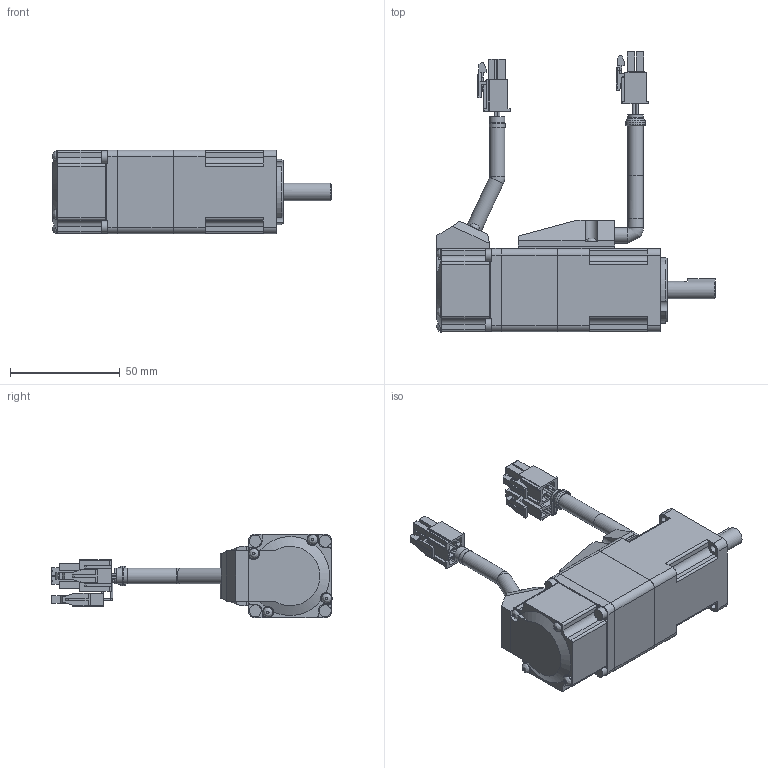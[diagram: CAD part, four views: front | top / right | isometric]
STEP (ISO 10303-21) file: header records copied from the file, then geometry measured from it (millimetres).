
FILE_DESCRIPTION( ( 'STEP AP203' ), '1' );
FILE_NAME( '//expscmdclustefs.cadenas.external/client_exchange/iodir/jobs/output/wkb71153207_no0/STEP/_MSMD5AZP1TA_2_03.stp', ' ', ( ' ' ), ( ' ' ), 'PSStep 15.0.47', 'PARTsolutions', ' ' );
FILE_SCHEMA( ( 'CONFIG_CONTROL_DESIGN' ) );
Length unit declared in the file: millimetre
Products named in the file (9):  MSMD5AZP1TA; HI_Motor--5-BPBB; HI_Motoplug--5B; HI_Brake--5P; HI_Motor Connector; HI_Brake Connector; HI_Encoder--5P; HI_Cabel  brake--5-P-4; HI_2500 p/r Connector
Assembly tree (8 placements, depth 2):
   MSMD5AZP1TA
    HI_Motor--5-BPBB
    HI_Motoplug--5B
    HI_Brake--5P
    HI_Motor Connector
    HI_Brake Connector
    HI_Encoder--5P
    HI_Cabel  brake--5-P-4
    HI_2500 p/r Connector
Bounding box: 127.03 x 127.8 x 38.2 mm (x, y, z)
Volume: 167520.4 mm3; surface area: 36087.1 mm2
Topology: 8 solids, 8 shells, 769 faces, 1961 edges, 1280 vertices
Faces by surface type: plane 565, cylinder 170, cone 17, torus 9, bspline 8
Full cylindrical faces by diameter (mm): 1 x14, 1.82 x4, 2.459 x1, 2.6 x12, 3.4 x4, 4.5 x4, 4.6 x3, 5 x4, 5.5 x7, 7 x7, 7.2 x1, 8 x1, 9 x1, 12.5 x1, 16.5 x1
Entity records: 22918 total; most frequent: CARTESIAN_POINT 4277, DIRECTION 3744, ORIENTED_EDGE 3678, EDGE_CURVE 1839, LINE 1422, VECTOR 1422, VERTEX_POINT 1252, AXIS2_PLACEMENT_3D 1161
